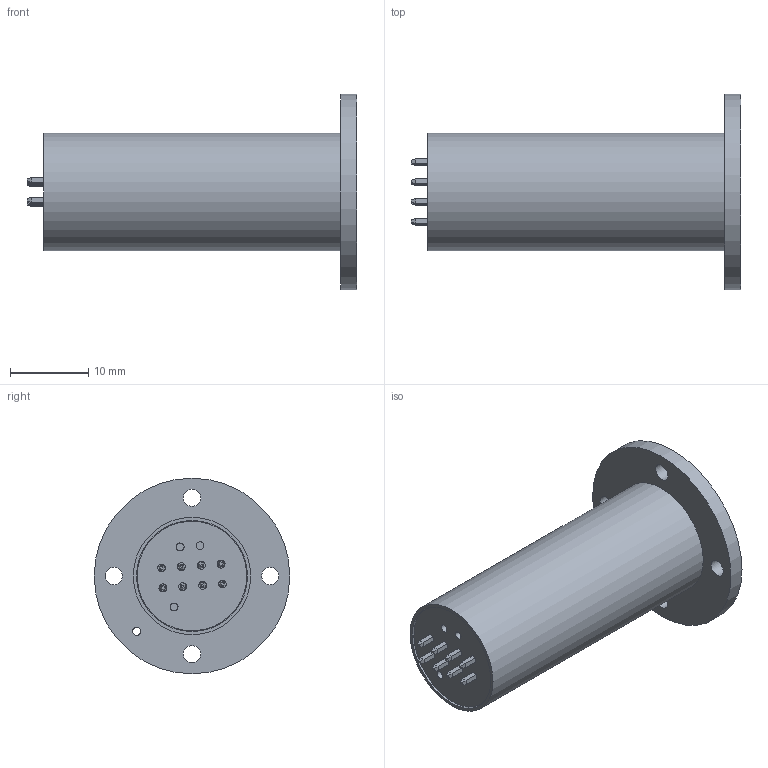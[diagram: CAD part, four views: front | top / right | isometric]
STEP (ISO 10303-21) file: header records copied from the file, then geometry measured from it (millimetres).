
FILE_DESCRIPTION(/* description */ (''),/* implementation_level */ '2;1');
FILE_NAME(/* name */ 'F:\daten\PRODUKTE\TELEMETR\SV\Mechanik\CAD\2bx\D15xL40\SV_2bx.stp',/* time_stamp */ '2018-10-11T09:45:37+02:00',/* author */ ('PHauser'),/* organization */ (''),/* preprocessor_version */ 'ST-DEVELOPER v16.5',/* originating_system */ 'Autodesk Inventor 2017',/* authorisation */ '');
FILE_SCHEMA (('AUTOMOTIVE_DESIGN { 1 0 10303 214 3 1 1 }'));
Length unit declared in the file: millimetre
Products named in the file (8): ZSB; D15xL35; Schalenkern_14x4,2_K1; Pinhalter; Stiftleiste4x2P; Stiftleiste2x1P; Verguß_Kern; Verguß
Assembly tree (10 placements, depth 3):
  ZSB
    D15xL35
    Schalenkern_14x4,2_K1
    Pinhalter
    Stiftleiste4x2P
      Stiftleiste2x1P  x4
    Verguß_Kern
    Verguß
Bounding box: 42.08 x 25 x 25 mm (x, y, z)
Volume: 8035.4 mm3; surface area: 7785.3 mm2
Topology: 9 solids, 9 shells, 300 faces, 706 edges, 444 vertices
Faces by surface type: plane 270, cylinder 30
Full cylindrical faces by diameter (mm): 1 x12, 2.2 x4, 3 x1, 6 x1, 12 x2, 14 x1, 14.2 x3, 15 x1, 25 x1
Entity records: 3387 total; most frequent: DIRECTION 556, CARTESIAN_POINT 528, ORIENTED_EDGE 464, EDGE_CURVE 232, AXIS2_PLACEMENT_3D 192, EDGE_LOOP 184, LINE 172, VECTOR 172
